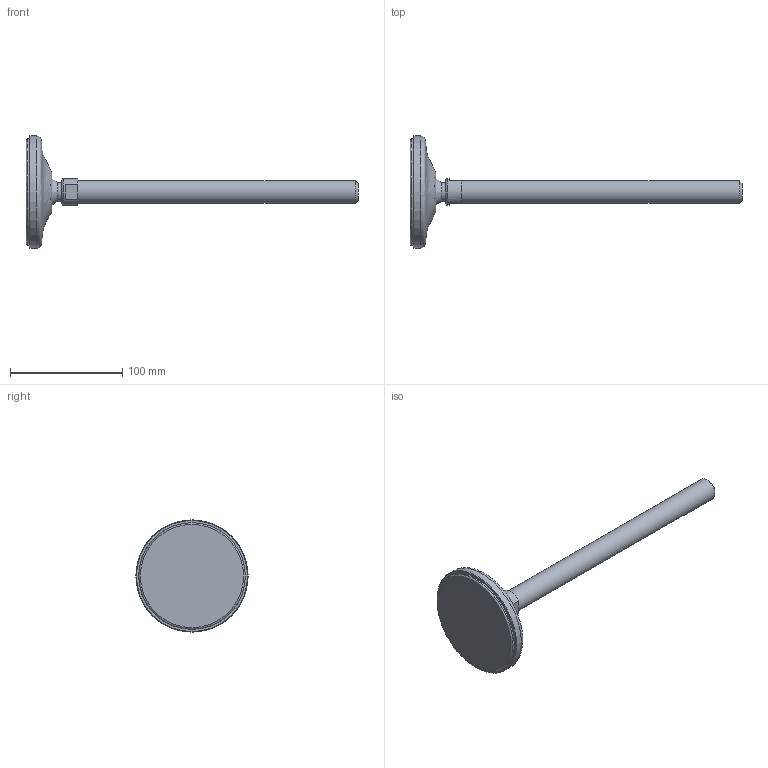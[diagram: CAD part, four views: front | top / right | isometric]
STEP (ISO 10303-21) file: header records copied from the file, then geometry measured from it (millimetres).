
FILE_DESCRIPTION(('STEP AP203'),'2;1');
FILE_NAME('10575.stp','2015-06-16T11:26:59',(''),(''),'2008.1.107','THINKDESIGN','');
FILE_SCHEMA(('CONFIG_CONTROL_DESIGN'));
Length unit declared in the file: millimetre
Bounding box: 296 x 100 x 100 mm (x, y, z)
Volume: 215029.2 mm3; surface area: 54989.8 mm2
Topology: 5 solids, 5 shells, 31 faces, 70 edges, 51 vertices
Faces by surface type: plane 16, bspline 8, cylinder 7
Full cylindrical faces by diameter (mm): 17 x1, 20 x1, 22 x1, 24 x1, 95 x2, 100 x1
Entity records: 1767 total; most frequent: CARTESIAN_POINT 941, DIRECTION 170, ORIENTED_EDGE 140, AXIS2_PLACEMENT_3D 77, EDGE_CURVE 70, CIRCLE 54, VERTEX_POINT 51, EDGE_LOOP 33
